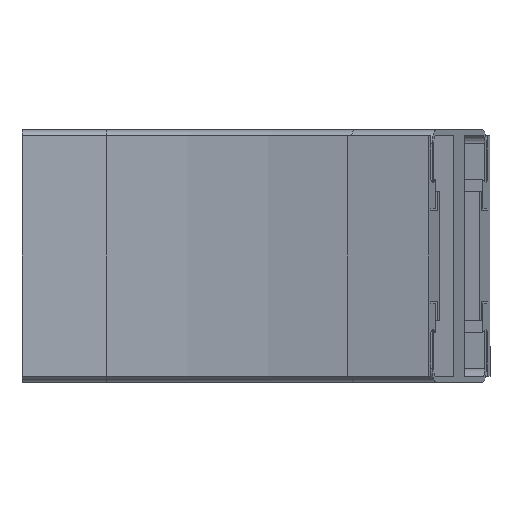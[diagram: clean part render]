
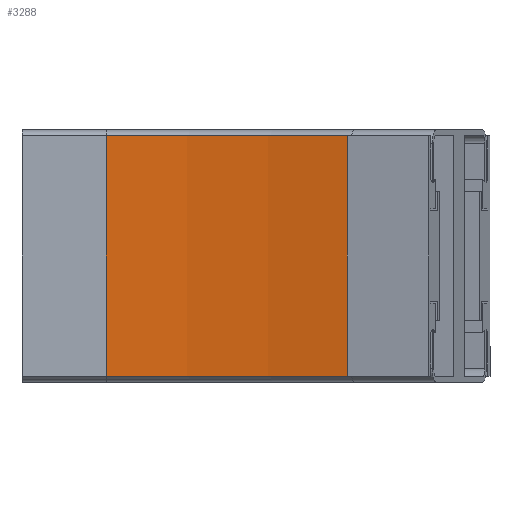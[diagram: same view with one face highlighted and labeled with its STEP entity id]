
A CAD part, front view. The second image highlights one B-rep face of the part: STEP entity #3288.
In plain terms, the highlighted cylindrical face has radius 443.5 mm (diameter 887 mm), a partial arc.
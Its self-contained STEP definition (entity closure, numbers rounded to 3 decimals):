
#38 = VECTOR ( 'NONE', #3622, 1000. ) ;
#134 = AXIS2_PLACEMENT_3D ( 'NONE', #4114, #2797, #1458 ) ;
#449 = EDGE_LOOP ( 'NONE', ( #3312, #2978, #4250, #798 ) ) ;
#469 = EDGE_CURVE ( 'NONE', #5024, #1659, #5627, .T. ) ;
#626 = CIRCLE ( 'NONE', #134, 443.5 ) ;
#749 = CARTESIAN_POINT ( 'NONE',  ( 40., -56.5, 57.15 ) ) ;
#798 = ORIENTED_EDGE ( 'NONE', *, *, #3661, .T. ) ;
#888 = CYLINDRICAL_SURFACE ( 'NONE', #2990, 443.5 ) ;
#1178 = VERTEX_POINT ( 'NONE', #5304 ) ;
#1450 = DIRECTION ( 'NONE',  ( 1., 0., 0. ) ) ;
#1458 = DIRECTION ( 'NONE',  ( 1., 0., 0. ) ) ;
#1561 = VECTOR ( 'NONE', #2566, 1000. ) ;
#1659 = VERTEX_POINT ( 'NONE', #2199 ) ;
#2199 = CARTESIAN_POINT ( 'NONE',  ( 40., -56.5, -57.15 ) ) ;
#2334 = CARTESIAN_POINT ( 'NONE',  ( 154.786, -71.612, -57.15 ) ) ;
#2471 = VERTEX_POINT ( 'NONE', #749 ) ;
#2566 = DIRECTION ( 'NONE',  ( 0., 0., -1. ) ) ;
#2591 = EDGE_CURVE ( 'NONE', #5024, #1178, #5256, .T. ) ;
#2698 = CARTESIAN_POINT ( 'NONE',  ( 154.786, -71.612, -57.15 ) ) ;
#2797 = DIRECTION ( 'NONE',  ( 0., 0., 1. ) ) ;
#2978 = ORIENTED_EDGE ( 'NONE', *, *, #469, .F. ) ;
#2990 = AXIS2_PLACEMENT_3D ( 'NONE', #3209, #4107, #1450 ) ;
#3209 = CARTESIAN_POINT ( 'NONE',  ( 40., -500., 0. ) ) ;
#3223 = LINE ( 'NONE', #3842, #1561 ) ;
#3288 = ADVANCED_FACE ( 'NONE', ( #4666 ), #888, .F. ) ;
#3312 = ORIENTED_EDGE ( 'NONE', *, *, #3740, .T. ) ;
#3622 = DIRECTION ( 'NONE',  ( 0., 0., 1. ) ) ;
#3661 = EDGE_CURVE ( 'NONE', #1178, #2471, #626, .T. ) ;
#3668 = DIRECTION ( 'NONE',  ( 0., 0., 1. ) ) ;
#3740 = EDGE_CURVE ( 'NONE', #2471, #1659, #3223, .T. ) ;
#3842 = CARTESIAN_POINT ( 'NONE',  ( 40., -56.5, 0. ) ) ;
#4107 = DIRECTION ( 'NONE',  ( 0., 0., 1. ) ) ;
#4114 = CARTESIAN_POINT ( 'NONE',  ( 40., -500., 57.15 ) ) ;
#4250 = ORIENTED_EDGE ( 'NONE', *, *, #2591, .T. ) ;
#4613 = DIRECTION ( 'NONE',  ( 1., 0., 0. ) ) ;
#4666 = FACE_OUTER_BOUND ( 'NONE', #449, .T. ) ;
#4756 = AXIS2_PLACEMENT_3D ( 'NONE', #5475, #3668, #4613 ) ;
#5024 = VERTEX_POINT ( 'NONE', #2334 ) ;
#5256 = LINE ( 'NONE', #2698, #38 ) ;
#5304 = CARTESIAN_POINT ( 'NONE',  ( 154.786, -71.612, 57.15 ) ) ;
#5475 = CARTESIAN_POINT ( 'NONE',  ( 40., -500., -57.15 ) ) ;
#5627 = CIRCLE ( 'NONE', #4756, 443.5 ) ;
